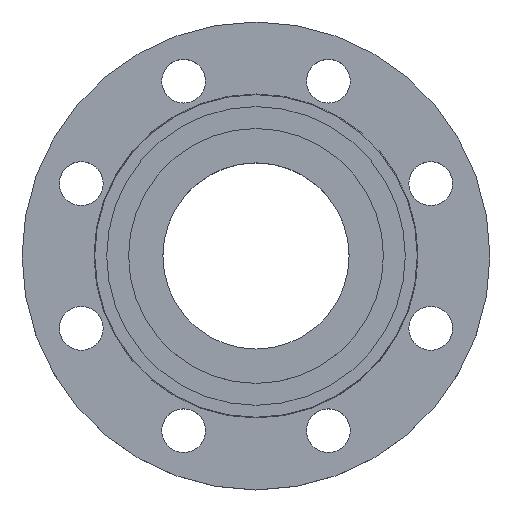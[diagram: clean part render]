
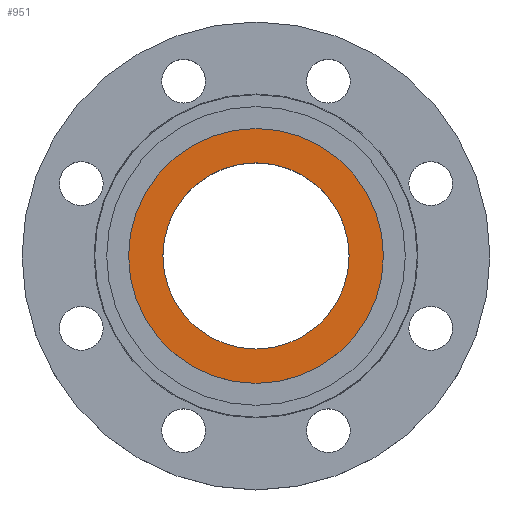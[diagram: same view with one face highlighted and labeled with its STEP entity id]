
A CAD part, top view. The second image highlights one B-rep face of the part: STEP entity #951.
In plain terms, the highlighted planar face has unit normal (0, 0, 1).
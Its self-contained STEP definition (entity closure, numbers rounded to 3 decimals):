
#9 = DIRECTION ( 'NONE',  ( 0., 0., 1. ) ) ;
#11 = DIRECTION ( 'NONE',  ( 1., 0., 0. ) ) ;
#13 = CARTESIAN_POINT ( 'NONE',  ( 0., 0., 0. ) ) ;
#14 = PLANE ( 'NONE',  #707 ) ;
#16 = FACE_OUTER_BOUND ( 'NONE', #1058, .T. ) ;
#18 = FACE_BOUND ( 'NONE', #1078, .T. ) ;
#77 = VERTEX_POINT ( 'NONE', #838 ) ;
#79 = AXIS2_PLACEMENT_3D ( 'NONE', #147, #146, #145 ) ;
#80 = CARTESIAN_POINT ( 'NONE',  ( -64., 0., 0. ) ) ;
#87 = VERTEX_POINT ( 'NONE', #843 ) ;
#96 = CIRCLE ( 'NONE', #97, 64. ) ;
#97 = AXIS2_PLACEMENT_3D ( 'NONE', #383, #382, #381 ) ;
#145 = DIRECTION ( 'NONE',  ( 1., 0., 0. ) ) ;
#146 = DIRECTION ( 'NONE',  ( 0., 0., 1. ) ) ;
#147 = CARTESIAN_POINT ( 'NONE',  ( 0., 0., 0. ) ) ;
#199 = DIRECTION ( 'NONE',  ( 1., 0., 0. ) ) ;
#200 = DIRECTION ( 'NONE',  ( 0., 0., 1. ) ) ;
#201 = CARTESIAN_POINT ( 'NONE',  ( 0., 0., 0. ) ) ;
#209 = AXIS2_PLACEMENT_3D ( 'NONE', #336, #335, #333 ) ;
#269 = CARTESIAN_POINT ( 'NONE',  ( -46.753, 0., 0. ) ) ;
#301 = AXIS2_PLACEMENT_3D ( 'NONE', #201, #200, #199 ) ;
#304 = CIRCLE ( 'NONE', #209, 64. ) ;
#305 = CIRCLE ( 'NONE', #301, 46.753 ) ;
#333 = DIRECTION ( 'NONE',  ( -1., 0., 0. ) ) ;
#335 = DIRECTION ( 'NONE',  ( 0., 0., -1. ) ) ;
#336 = CARTESIAN_POINT ( 'NONE',  ( 0., 0., 0. ) ) ;
#381 = DIRECTION ( 'NONE',  ( -1., 0., 0. ) ) ;
#382 = DIRECTION ( 'NONE',  ( 0., 0., -1. ) ) ;
#383 = CARTESIAN_POINT ( 'NONE',  ( 0., 0., 0. ) ) ;
#639 = CIRCLE ( 'NONE', #79, 46.753 ) ;
#706 = EDGE_CURVE ( 'NONE', #77, #923, #96, .T. ) ;
#707 = AXIS2_PLACEMENT_3D ( 'NONE', #13, #9, #11 ) ;
#763 = EDGE_CURVE ( 'NONE', #923, #77, #304, .T. ) ;
#794 = VERTEX_POINT ( 'NONE', #269 ) ;
#831 = EDGE_CURVE ( 'NONE', #87, #794, #305, .T. ) ;
#838 = CARTESIAN_POINT ( 'NONE',  ( 64., 0., 0. ) ) ;
#843 = CARTESIAN_POINT ( 'NONE',  ( 46.753, 0., 0. ) ) ;
#901 = EDGE_CURVE ( 'NONE', #794, #87, #639, .T. ) ;
#923 = VERTEX_POINT ( 'NONE', #80 ) ;
#951 = ADVANCED_FACE ( 'NONE', ( #18, #16 ), #14, .T. ) ;
#1058 = EDGE_LOOP ( 'NONE', ( #1121, #1122 ) ) ;
#1078 = EDGE_LOOP ( 'NONE', ( #1118, #1119 ) ) ;
#1118 = ORIENTED_EDGE ( 'NONE', *, *, #831, .F. ) ;
#1119 = ORIENTED_EDGE ( 'NONE', *, *, #901, .F. ) ;
#1121 = ORIENTED_EDGE ( 'NONE', *, *, #763, .F. ) ;
#1122 = ORIENTED_EDGE ( 'NONE', *, *, #706, .F. ) ;
